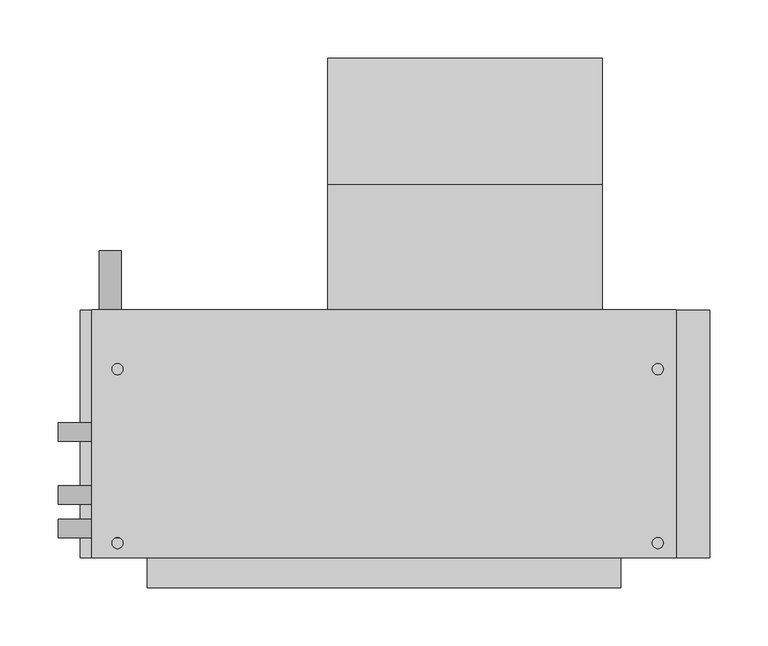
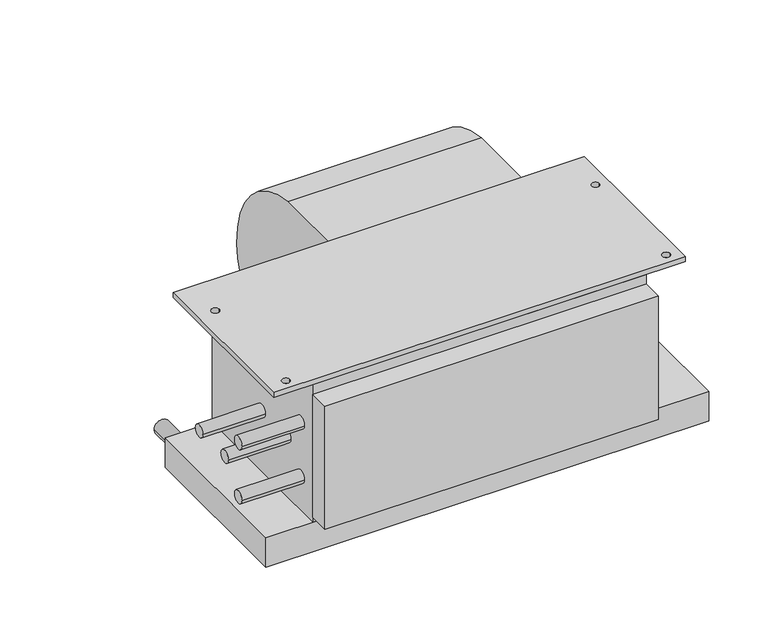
"""IFC4 building model written with IfcOpenShell, lengths in millimetres: proxy geometry, Concealed_Horizontal_Fan_Coil_Unit_-_42CAA_-_CARRIER_-_4-Pipe_LH_2022 : Size 02 - 277v/60Hz/1Ph - 4/1 Coil."""

from ifc_helpers import new_model, si_unit, point, frame, frame_2d, origin, place, context, project, spatial, polyline, circle_curve, trimmed, segment, composite_curve, outline, extrude, source, transform, mapped, element, save


def mechanical_equipment_c10a815c(model_context):
    return source(origin(), model_context, "Body", "SweptSolid", [
        extrude(outline(composite_curve([segment(trimmed(circle_curve(frame_2d((-33.198831, -136.0299844)), 117.3559541), [point((-23.8125, -19.05))], [point((84.1375, -138.176))], False, "CARTESIAN"), True, "CONTINUOUS"), segment(trimmed(circle_curve(frame_2d((-11.5977337, -136.4250563)), 95.7512443), [point((84.1375, -138.176))], [point((-23.8125, -231.394))], False, "CARTESIAN"), True, "CONTINUOUS"), segment(trimmed(circle_curve(frame_2d((-11.6288131, -136.6666968)), 95.5076133), [point((-23.8125, -231.394))], [point((-107.1245, -138.176))], False, "CARTESIAN"), True, "CONTINUOUS"), segment(trimmed(circle_curve(frame_2d((-126.2059828, -138.4775816)), 19.0838659), [point((-107.1245, -138.176))], [point((-119.3963373, -120.65))], True, "CARTESIAN"), True, "CONTINUOUS"), segment(polyline([(-119.3963373, -120.65), (-131.7625, -120.65), (-131.7625, -19.05), (-23.8125, -19.05)]), True, "CONTINUOUS")], self_intersect=False)), frame((104.013, 0.0, 0.0), z_axis=(1.0, 0.0, 0.0), x_axis=(0.0, 1.0, 0.0)), (0.0, 0.0, 1.0), 235.712),
        extrude(outline(polyline([(403.225, -131.7625), (403.225, -344.4875), (-98.425, -344.4875), (-98.425, -131.7625), (403.225, -131.7625)]), holes=[composite_curve([segment(trimmed(circle_curve(frame_2d((-76.2, -182.5625)), 4.7625), [point((-80.9625, -182.5625))], [point((-71.4375, -182.5625))], True, "CARTESIAN"), True, "CONTINUOUS"), segment(trimmed(circle_curve(frame_2d((-76.2, -182.5625)), 4.7625), [point((-71.4375, -182.5625))], [point((-80.9625, -182.5625))], True, "CARTESIAN"), True, "CONTINUOUS")], self_intersect=False), composite_curve([segment(trimmed(circle_curve(frame_2d((-76.2, -331.7875)), 4.7625), [point((-80.9625, -331.7875))], [point((-71.4375, -331.7875))], True, "CARTESIAN"), True, "CONTINUOUS"), segment(trimmed(circle_curve(frame_2d((-76.2, -331.7875)), 4.7625), [point((-71.4375, -331.7875))], [point((-80.9625, -331.7875))], True, "CARTESIAN"), True, "CONTINUOUS")], self_intersect=False), composite_curve([segment(trimmed(circle_curve(frame_2d((387.35, -182.5625)), 4.7625), [point((382.5875, -182.5625))], [point((392.1125, -182.5625))], True, "CARTESIAN"), True, "CONTINUOUS"), segment(trimmed(circle_curve(frame_2d((387.35, -182.5625)), 4.7625), [point((392.1125, -182.5625))], [point((382.5875, -182.5625))], True, "CARTESIAN"), True, "CONTINUOUS")], self_intersect=False), composite_curve([segment(trimmed(circle_curve(frame_2d((387.35, -331.7875)), 4.7625), [point((382.5875, -331.7875))], [point((392.1125, -331.7875))], True, "CARTESIAN"), True, "CONTINUOUS"), segment(trimmed(circle_curve(frame_2d((387.35, -331.7875)), 4.7625), [point((392.1125, -331.7875))], [point((382.5875, -331.7875))], True, "CARTESIAN"), True, "CONTINUOUS")], self_intersect=False)]), frame((0.0, 0.0, -6.35), z_axis=(0.0, 0.0, 1.0), x_axis=(1.0, 0.0, 0.0)), (0.0, 0.0, 1.0), 6.35),
        extrude(outline(composite_curve([segment(trimmed(circle_curve(frame_2d((-209.55, -82.55)), 9.525), [point((-209.55, -92.075))], [point((-209.55, -73.025))], False, "CARTESIAN"), True, "CONTINUOUS"), segment(trimmed(circle_curve(frame_2d((-209.55, -82.55)), 9.525), [point((-209.55, -73.025))], [point((-209.55, -92.075))], False, "CARTESIAN"), True, "CONTINUOUS")], self_intersect=False)), frame((0.0, -131.7625, 0.0), z_axis=(0.0, 1.0, 0.0), x_axis=(0.0, 0.0, 1.0)), (0.0, 0.0, 1.0), 50.8),
        extrude(outline(polyline([(355.6, -369.8875), (-50.8, -369.8875), (-50.8, -344.4875), (355.6, -344.4875), (355.6, -369.8875)])), frame((0.0, 0.0, -177.8), z_axis=(0.0, 0.0, 1.0), x_axis=(1.0, 0.0, 0.0)), (0.0, 0.0, 1.0), 158.75),
        extrude(outline(polyline([(431.8, -131.7625), (431.8, -344.4875), (-107.95, -344.4875), (-107.95, -131.7625), (431.8, -131.7625)])), frame((0.0, 0.0, -222.25), z_axis=(0.0, 0.0, 1.0), x_axis=(1.0, 0.0, 0.0)), (0.0, 0.0, 1.0), 38.1),
        extrude(outline(composite_curve([segment(trimmed(circle_curve(frame_2d((-236.5375, -104.775)), 7.9375), [point((-228.6, -104.775))], [point((-244.475, -104.775))], False, "CARTESIAN"), True, "CONTINUOUS"), segment(trimmed(circle_curve(frame_2d((-236.5375, -104.775)), 7.9375), [point((-244.475, -104.775))], [point((-228.6, -104.775))], False, "CARTESIAN"), True, "CONTINUOUS")], self_intersect=False)), frame((-127.0, 0.0, 0.0), z_axis=(1.0, 0.0, 0.0), x_axis=(0.0, 1.0, 0.0)), (0.0, 0.0, 1.0), 76.2),
        extrude(outline(composite_curve([segment(trimmed(circle_curve(frame_2d((-290.5125, -104.775)), 7.9375), [point((-282.575, -104.775))], [point((-298.45, -104.775))], False, "CARTESIAN"), True, "CONTINUOUS"), segment(trimmed(circle_curve(frame_2d((-290.5125, -104.775)), 7.9375), [point((-298.45, -104.775))], [point((-282.575, -104.775))], False, "CARTESIAN"), True, "CONTINUOUS")], self_intersect=False)), frame((-127.0, 0.0, 0.0), z_axis=(1.0, 0.0, 0.0), x_axis=(0.0, 1.0, 0.0)), (0.0, 0.0, 1.0), 76.2),
        extrude(outline(composite_curve([segment(trimmed(circle_curve(frame_2d((-319.0875, -69.85)), 7.9375), [point((-311.15, -69.85))], [point((-327.025, -69.85))], False, "CARTESIAN"), True, "CONTINUOUS"), segment(trimmed(circle_curve(frame_2d((-319.0875, -69.85)), 7.9375), [point((-327.025, -69.85))], [point((-311.15, -69.85))], False, "CARTESIAN"), True, "CONTINUOUS")], self_intersect=False)), frame((-127.0, 0.0, 0.0), z_axis=(1.0, 0.0, 0.0), x_axis=(0.0, 1.0, 0.0)), (0.0, 0.0, 1.0), 76.2),
        extrude(outline(composite_curve([segment(trimmed(circle_curve(frame_2d((-319.0875, -139.7)), 7.9375), [point((-311.15, -139.7))], [point((-327.025, -139.7))], False, "CARTESIAN"), True, "CONTINUOUS"), segment(trimmed(circle_curve(frame_2d((-319.0875, -139.7)), 7.9375), [point((-327.025, -139.7))], [point((-311.15, -139.7))], False, "CARTESIAN"), True, "CONTINUOUS")], self_intersect=False)), frame((-127.0, 0.0, 0.0), z_axis=(1.0, 0.0, 0.0), x_axis=(0.0, 1.0, 0.0)), (0.0, 0.0, 1.0), 76.2),
        extrude(outline(polyline([(355.6, -344.4875), (-50.8, -344.4875), (-50.8, -131.7625), (355.6, -131.7625), (355.6, -344.4875)])), frame((0.0, 0.0, -184.15), z_axis=(0.0, 0.0, 1.0), x_axis=(1.0, 0.0, 0.0)), (0.0, 0.0, 1.0), 177.8),
    ])


if __name__ == "__main__":
    model = new_model("IFC4")
    model_context = context("Model", 3, world=origin())
    ifc_project = project(units=[si_unit("LENGTHUNIT", "METRE", prefix="MILLI")], contexts=[model_context])
    site = spatial("IfcSite", under=ifc_project)
    building = spatial("IfcBuilding", under=site)
    placement = place(None, origin())
    mechanical_equipment_shape = mechanical_equipment_c10a815c(model_context)
    element("IfcBuildingElementProxy", 1, Name="Concealed_Horizontal_Fan_Coil_Unit_-_42CAA_-_CARRIER_-_4-Pipe_LH_2022 : Size 02 - 277v/60Hz/1Ph - 4/1 Coil", ObjectType="Concealed_Horizontal_Fan_Coil_Unit_-_42CAA_-_CARRIER_-_4-Pipe_LH_2022 : Size 02 - 277v/60Hz/1Ph - 4/1 Coil", at=placement, inside=building, context=model_context, shape_type="MappedRepresentation", body=[
        mapped(mechanical_equipment_shape, transform((0.0, 0.0, 0.0), x_axis=(1.0, 0.0, 0.0), y_axis=(0.0, 1.0, 0.0), z_axis=(0.0, 0.0, 1.0))),
    ])
    save(model, "model.ifc")
